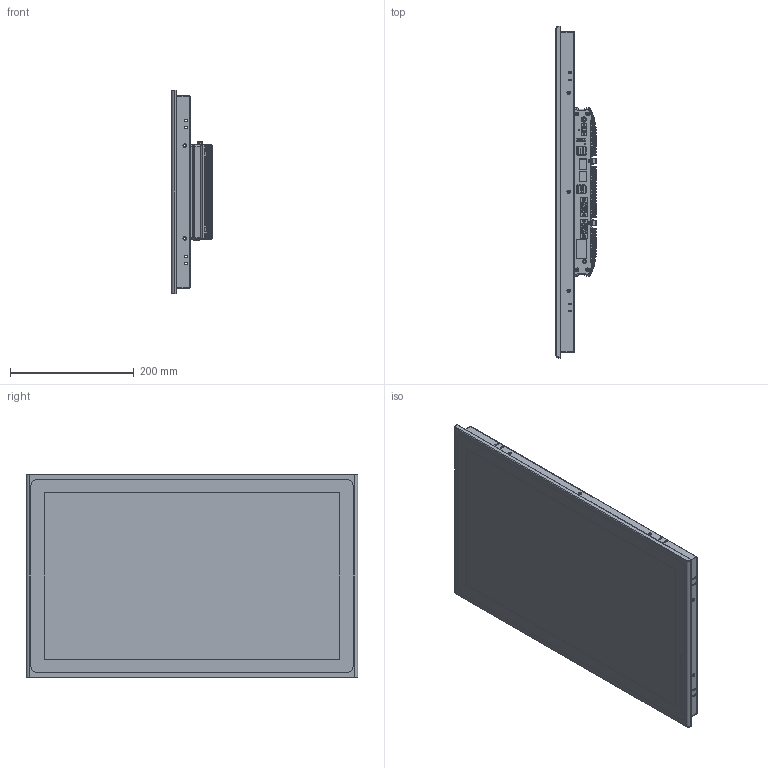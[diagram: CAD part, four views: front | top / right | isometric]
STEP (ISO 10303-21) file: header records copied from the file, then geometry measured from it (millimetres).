
FILE_DESCRIPTION((''),'2;1');
FILE_NAME('FPM-2105-20250227-K','2025-08-02T23:11:31',('anthony'),(''),'CREO PARAMETRIC BY PTC INC, 2024063','CREO PARAMETRIC BY PTC INC, 2024063','');
FILE_SCHEMA(('CONFIG_CONTROL_DESIGN','SHAPE_APPEARANCE_LAYERS_GROUPS'));
Products named in the file (1): FPM-2105-20250227-K
Bounding box: 65.58 x 536.15 x 329.4 mm (x, y, z)
Volume: 1555641.8 mm3; surface area: 1421057.2 mm2
Topology: 25 solids, 49 shells, 6306 faces, 19996 edges, 13804 vertices
Faces by surface type: plane 3609, cylinder 2405, cone 136, torus 87, bspline 63, revolution 4, sphere 2
Entity records: 277426 total; most frequent: CARTESIAN_POINT 52869, ORIENTED_EDGE 39297, DIRECTION 36269, EDGE_CURVE 19958, VERTEX_POINT 13804, PRESENTATION_STYLE_ASSIGNMENT 13773, STYLED_ITEM 13405, CURVE_STYLE 12894
